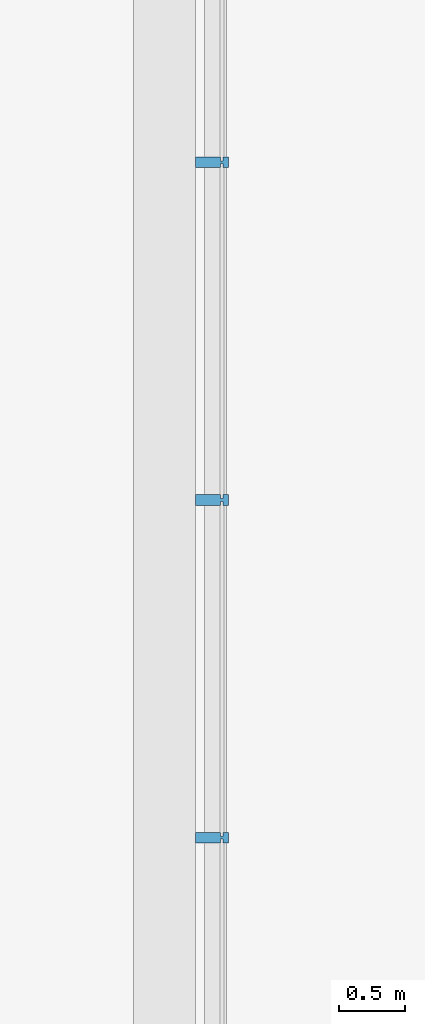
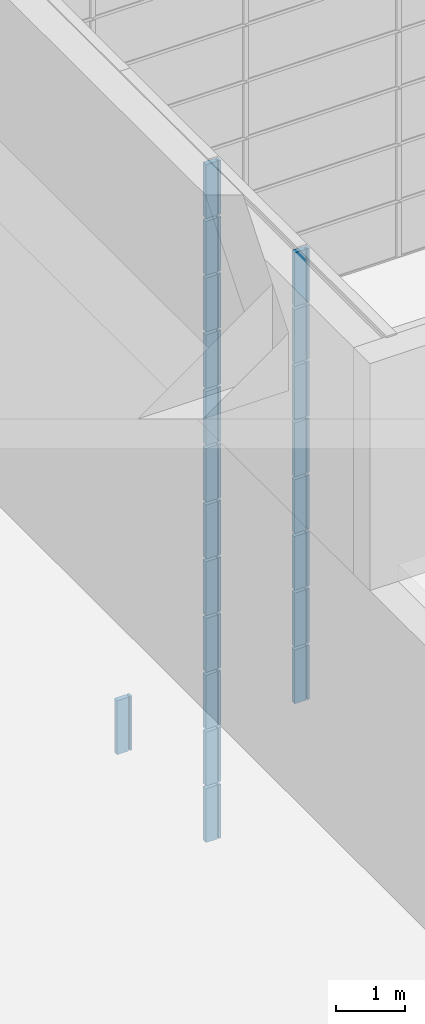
# One storey, part 77 of 105: 21 building element parts, 4 elements without a shape of their own.
"""IFC4 building model written with IfcOpenShell, lengths in millimetres."""

from ifc_helpers import new_model, entity, si_unit, converted_unit, derived_unit, direction, frame, origin_with_axes, place, context, subcontext, project, spatial, triangles, material, element, aggregate, save


model = new_model("IFC4")

# Units and contexts
model_context = context("Model", 3, precision=1e-05, world=origin_with_axes(), true_north=direction((0.0, 1.0)))
body_context = subcontext(model_context, "Body", "Model", "MODEL_VIEW")
ifc_project = project(units=[si_unit("LENGTHUNIT", "METRE", prefix="MILLI"), si_unit("AREAUNIT", "SQUARE_METRE"), si_unit("VOLUMEUNIT", "CUBIC_METRE"), converted_unit("PLANEANGLEUNIT", "DEGREE", entity("IfcLengthMeasure", 0.017453), si_unit("PLANEANGLEUNIT", "RADIAN"), dimensions=[0, 0, 0, 0, 0, 0, 0]), si_unit("SOLIDANGLEUNIT", "STERADIAN"), si_unit("MASSUNIT", "GRAM"), si_unit("TIMEUNIT", "SECOND"), si_unit("THERMODYNAMICTEMPERATUREUNIT", "DEGREE_CELSIUS"), si_unit("LUMINOUSINTENSITYUNIT", "LUMEN"), si_unit("POWERUNIT", "WATT"), derived_unit("THERMALTRANSMITTANCEUNIT", [(si_unit("POWERUNIT", "WATT"), 1), (si_unit("THERMODYNAMICTEMPERATUREUNIT", "KELVIN"), -1), (si_unit("AREAUNIT", "SQUARE_METRE"), -1)])], contexts=[model_context])

# Site, building, storey
site_placement = place(None, origin_with_axes())
site = spatial("IfcSite", under=ifc_project, at=site_placement, Name="Default Site", CompositionType="ELEMENT")
building_placement = place(site_placement, origin_with_axes())
building = spatial("IfcBuilding", under=site, at=building_placement, Name="Default Building", CompositionType="ELEMENT")
storey_placement = place(building_placement, origin_with_axes())
storey = spatial("IfcBuildingStorey", under=building, at=storey_placement, Name="OG - Story", CompositionType="ELEMENT", Elevation=0.0)

# Curtain wall, building element parts
curtain_wall_1_placement = place(storey_placement, origin_with_axes())
curtain_wall_1 = element("IfcCurtainWall", 1, at=curtain_wall_1_placement, inside=storey, Name="Fassade-006", PredefinedType="NOTDEFINED")
ifc_material = material(Name="Blech")
building_element_part_1_placement = place(curtain_wall_1_placement, frame((51421.391327, -39309.262838, 0.0), z_axis=(0.0, 0.0, 1.0), x_axis=(1.0, 0.0, 0.0)))
building_element_part_1 = element("IfcBuildingElementPart", 2, at=building_element_part_1_placement, material=ifc_material, Name="Blech", PredefinedType="NOTDEFINED", context=body_context, shape_type="Tessellation", body=[
    triangles([(50.0, 3880.0, 975.0), (10.0, 3880.0, 975.0), (50.0, 3800.0, 975.0), (10.0, 3850.0, 975.0), (10.0, 3830.0, 975.0), (-9.999, 3850.0, 975.0), (-9.999, 3830.0, 975.0), (-9.999, 3800.0, 975.0), (-9.999, 3880.0, 975.0), (-199.999, 3880.0, 975.0), (-199.999, 3800.0, 975.0), (10.0, 3800.0, 975.0), (-9.999, 3850.0, 25.0), (-9.999, 3880.0, 25.0), (-199.999, 3880.0, 25.0), (-199.999, 3800.0, 25.0), (-9.999, 3800.0, 25.0), (-9.999, 3830.0, 25.0), (10.0, 3830.0, 25.0), (10.0, 3800.0, 25.0), (50.0, 3800.0, 25.0), (50.0, 3880.0, 25.0), (10.0, 3880.0, 25.0), (10.0, 3850.0, 25.0)], [[1, 2, 3], [3, 2, 4], [3, 4, 5], [5, 4, 6], [5, 6, 7], [8, 9, 10], [8, 10, 11], [3, 5, 12], [9, 6, 13], [9, 13, 14], [9, 14, 15], [9, 15, 10], [10, 15, 16], [10, 16, 11], [8, 11, 16], [8, 16, 17], [8, 17, 18], [8, 18, 7], [7, 18, 19], [7, 19, 5], [12, 5, 19], [12, 19, 20], [20, 21, 3], [20, 3, 12], [3, 21, 22], [3, 22, 1], [23, 2, 1], [23, 1, 22], [4, 2, 23], [4, 23, 24], [6, 4, 24], [6, 24, 13], [21, 20, 22], [22, 20, 19], [22, 19, 24], [24, 19, 18], [24, 18, 13], [14, 17, 16], [14, 16, 15], [22, 24, 23]], closed=False),
])
building_element_part_2_placement = place(curtain_wall_1_placement, frame((51421.391327, -39309.262838, 0.0), z_axis=(0.0, 0.0, 1.0), x_axis=(1.0, 0.0, 0.0)))
building_element_part_2 = element("IfcBuildingElementPart", 3, at=building_element_part_2_placement, material=ifc_material, Name="Blech", PredefinedType="NOTDEFINED", context=body_context, shape_type="Tessellation", body=[
    triangles([(50.0, 6440.0, 975.0), (10.0, 6440.0, 975.0), (50.0, 6360.0, 975.0), (10.0, 6410.0, 975.0), (10.0, 6390.0, 975.0), (-9.999, 6410.0, 975.0), (-9.999, 6390.0, 975.0), (-9.999, 6360.0, 975.0), (-9.999, 6440.0, 975.0), (-199.999, 6440.0, 975.0), (-199.999, 6360.0, 975.0), (10.0, 6360.0, 975.0), (-9.999, 6410.0, 25.0), (-9.999, 6440.0, 25.0), (-199.999, 6440.0, 25.0), (-199.999, 6360.0, 25.0), (-9.999, 6360.0, 25.0), (-9.999, 6390.0, 25.0), (10.0, 6390.0, 25.0), (10.0, 6360.0, 25.0), (50.0, 6360.0, 25.0), (50.0, 6440.0, 25.0), (10.0, 6440.0, 25.0), (10.0, 6410.0, 25.0)], [[1, 2, 3], [3, 2, 4], [3, 4, 5], [5, 4, 6], [5, 6, 7], [8, 9, 10], [8, 10, 11], [3, 5, 12], [9, 6, 13], [9, 13, 14], [9, 14, 15], [9, 15, 10], [10, 15, 16], [10, 16, 11], [8, 11, 16], [8, 16, 17], [8, 17, 18], [8, 18, 7], [7, 18, 19], [7, 19, 5], [12, 5, 19], [12, 19, 20], [20, 21, 3], [20, 3, 12], [3, 21, 22], [3, 22, 1], [23, 2, 1], [23, 1, 22], [4, 2, 23], [4, 23, 24], [6, 4, 24], [6, 24, 13], [21, 20, 22], [22, 20, 19], [22, 19, 24], [24, 19, 18], [24, 18, 13], [14, 17, 16], [14, 16, 15], [22, 24, 23]], closed=False),
])
building_element_part_3_placement = place(curtain_wall_1_placement, frame((51421.391327, -39309.262838, 0.0), z_axis=(0.0, 0.0, 1.0), x_axis=(1.0, 0.0, 0.0)))
building_element_part_3 = element("IfcBuildingElementPart", 4, at=building_element_part_3_placement, material=ifc_material, Name="Blech", PredefinedType="NOTDEFINED", context=body_context, shape_type="Tessellation", body=[
    triangles([(50.0, 3880.0, 1975.0), (10.0, 3880.0, 1975.0), (50.0, 3800.0, 1975.0), (10.0, 3850.0, 1975.0), (10.0, 3830.0, 1975.0), (-9.999, 3850.0, 1975.0), (-9.999, 3830.0, 1975.0), (-9.999, 3800.0, 1975.0), (-9.999, 3880.0, 1975.0), (-199.999, 3880.0, 1975.0), (-199.999, 3800.0, 1975.0), (10.0, 3800.0, 1975.0), (-9.999, 3850.0, 1025.0), (-9.999, 3880.0, 1025.0), (-199.999, 3880.0, 1025.0), (-199.999, 3800.0, 1025.0), (-9.999, 3800.0, 1025.0), (-9.999, 3830.0, 1025.0), (10.0, 3830.0, 1025.0), (10.0, 3800.0, 1025.0), (50.0, 3800.0, 1025.0), (50.0, 3880.0, 1025.0), (10.0, 3880.0, 1025.0), (10.0, 3850.0, 1025.0)], [[1, 2, 3], [3, 2, 4], [3, 4, 5], [5, 4, 6], [5, 6, 7], [8, 9, 10], [8, 10, 11], [3, 5, 12], [9, 6, 13], [9, 13, 14], [9, 14, 15], [9, 15, 10], [10, 15, 16], [10, 16, 11], [8, 11, 16], [8, 16, 17], [8, 17, 18], [8, 18, 7], [7, 18, 19], [7, 19, 5], [12, 5, 19], [12, 19, 20], [20, 21, 3], [20, 3, 12], [3, 21, 22], [3, 22, 1], [23, 2, 1], [23, 1, 22], [4, 2, 23], [4, 23, 24], [6, 4, 24], [6, 24, 13], [21, 20, 22], [22, 20, 19], [22, 19, 24], [24, 19, 18], [24, 18, 13], [14, 17, 16], [14, 16, 15], [22, 24, 23]], closed=False),
])
building_element_part_4_placement = place(curtain_wall_1_placement, frame((51421.391327, -39309.262838, 0.0), z_axis=(0.0, 0.0, 1.0), x_axis=(1.0, 0.0, 0.0)))
building_element_part_4 = element("IfcBuildingElementPart", 5, at=building_element_part_4_placement, material=ifc_material, Name="Blech", PredefinedType="NOTDEFINED", context=body_context, shape_type="Tessellation", body=[
    triangles([(50.0, 3880.0, 2975.0), (10.0, 3880.0, 2975.0), (50.0, 3800.0, 2975.0), (10.0, 3850.0, 2975.0), (10.0, 3830.0, 2975.0), (-9.999, 3850.0, 2975.0), (-9.999, 3830.0, 2975.0), (-9.999, 3800.0, 2975.0), (-9.999, 3880.0, 2975.0), (-199.999, 3880.0, 2975.0), (-199.999, 3800.0, 2975.0), (10.0, 3800.0, 2975.0), (-9.999, 3850.0, 2025.0), (-9.999, 3880.0, 2025.0), (-199.999, 3880.0, 2025.0), (-199.999, 3800.0, 2025.0), (-9.999, 3800.0, 2025.0), (-9.999, 3830.0, 2025.0), (10.0, 3830.0, 2025.0), (10.0, 3800.0, 2025.0), (50.0, 3800.0, 2025.0), (50.0, 3880.0, 2025.0), (10.0, 3880.0, 2025.0), (10.0, 3850.0, 2025.0)], [[1, 2, 3], [3, 2, 4], [3, 4, 5], [5, 4, 6], [5, 6, 7], [8, 9, 10], [8, 10, 11], [3, 5, 12], [9, 6, 13], [9, 13, 14], [9, 14, 15], [9, 15, 10], [10, 15, 16], [10, 16, 11], [8, 11, 16], [8, 16, 17], [8, 17, 18], [8, 18, 7], [7, 18, 19], [7, 19, 5], [12, 5, 19], [12, 19, 20], [20, 21, 3], [20, 3, 12], [3, 21, 22], [3, 22, 1], [23, 2, 1], [23, 1, 22], [4, 2, 23], [4, 23, 24], [6, 4, 24], [6, 24, 13], [21, 20, 22], [22, 20, 19], [22, 19, 24], [24, 19, 18], [24, 18, 13], [14, 17, 16], [14, 16, 15], [22, 24, 23]], closed=False),
])
aggregate(curtain_wall_1, [building_element_part_1, building_element_part_2, building_element_part_3, building_element_part_4])

curtain_wall_2_placement = place(storey_placement, origin_with_axes())
curtain_wall_2 = element("IfcCurtainWall", 6, at=curtain_wall_2_placement, inside=storey, Name="Fassade-006", PredefinedType="NOTDEFINED")
building_element_part_5_placement = place(curtain_wall_2_placement, frame((51421.391327, -39309.262838, 3000.0), z_axis=(0.0, 0.0, 1.0), x_axis=(1.0, 0.0, 0.0)))
building_element_part_5 = element("IfcBuildingElementPart", 7, at=building_element_part_5_placement, material=ifc_material, Name="Blech", PredefinedType="NOTDEFINED", context=body_context, shape_type="Tessellation", body=[
    triangles([(50.0, 3880.0, 975.0), (10.0, 3880.0, 975.0), (50.0, 3800.0, 975.0), (10.0, 3850.0, 975.0), (10.0, 3830.0, 975.0), (-9.999, 3850.0, 975.0), (-9.999, 3830.0, 975.0), (-9.999, 3800.0, 975.0), (-9.999, 3880.0, 975.0), (-199.999, 3880.0, 975.0), (-199.999, 3800.0, 975.0), (10.0, 3800.0, 975.0), (-9.999, 3850.0, 25.0), (-9.999, 3880.0, 25.0), (-199.999, 3880.0, 25.0), (-199.999, 3800.0, 25.0), (-9.999, 3800.0, 25.0), (-9.999, 3830.0, 25.0), (10.0, 3830.0, 25.0), (10.0, 3800.0, 25.0), (50.0, 3800.0, 25.0), (50.0, 3880.0, 25.0), (10.0, 3880.0, 25.0), (10.0, 3850.0, 25.0)], [[1, 2, 3], [3, 2, 4], [3, 4, 5], [5, 4, 6], [5, 6, 7], [8, 9, 10], [8, 10, 11], [3, 5, 12], [9, 6, 13], [9, 13, 14], [9, 14, 15], [9, 15, 10], [10, 15, 16], [10, 16, 11], [8, 11, 16], [8, 16, 17], [8, 17, 18], [8, 18, 7], [7, 18, 19], [7, 19, 5], [12, 5, 19], [12, 19, 20], [20, 21, 3], [20, 3, 12], [3, 21, 22], [3, 22, 1], [23, 2, 1], [23, 1, 22], [4, 2, 23], [4, 23, 24], [6, 4, 24], [6, 24, 13], [21, 20, 22], [22, 20, 19], [22, 19, 24], [24, 19, 18], [24, 18, 13], [14, 17, 16], [14, 16, 15], [22, 24, 23]], closed=False),
])
building_element_part_6_placement = place(curtain_wall_2_placement, frame((51421.391327, -39309.262838, 3000.0), z_axis=(0.0, 0.0, 1.0), x_axis=(1.0, 0.0, 0.0)))
building_element_part_6 = element("IfcBuildingElementPart", 8, at=building_element_part_6_placement, material=ifc_material, Name="Blech", PredefinedType="NOTDEFINED", context=body_context, shape_type="Tessellation", body=[
    triangles([(50.0, 1320.0, 1975.0), (10.0, 1320.0, 1975.0), (50.0, 1240.0, 1975.0), (10.0, 1290.0, 1975.0), (10.0, 1270.0, 1975.0), (-9.999, 1290.0, 1975.0), (-9.999, 1270.0, 1975.0), (-9.999, 1240.0, 1975.0), (-9.999, 1320.0, 1975.0), (-199.999, 1320.0, 1975.0), (-199.999, 1240.0, 1975.0), (10.0, 1240.0, 1975.0), (-9.999, 1290.0, 1025.0), (-9.999, 1320.0, 1025.0), (-199.999, 1320.0, 1025.0), (-199.999, 1240.0, 1025.0), (-9.999, 1240.0, 1025.0), (-9.999, 1270.0, 1025.0), (10.0, 1270.0, 1025.0), (10.0, 1240.0, 1025.0), (50.0, 1240.0, 1025.0), (50.0, 1320.0, 1025.0), (10.0, 1320.0, 1025.0), (10.0, 1290.0, 1025.0)], [[1, 2, 3], [3, 2, 4], [3, 4, 5], [5, 4, 6], [5, 6, 7], [8, 9, 10], [8, 10, 11], [3, 5, 12], [9, 6, 13], [9, 13, 14], [9, 14, 15], [9, 15, 10], [10, 15, 16], [10, 16, 11], [8, 11, 16], [8, 16, 17], [8, 17, 18], [8, 18, 7], [7, 18, 19], [7, 19, 5], [12, 5, 19], [12, 19, 20], [20, 21, 3], [20, 3, 12], [3, 21, 22], [3, 22, 1], [23, 2, 1], [23, 1, 22], [4, 2, 23], [4, 23, 24], [6, 4, 24], [6, 24, 13], [21, 20, 22], [22, 20, 19], [22, 19, 24], [24, 19, 18], [24, 18, 13], [14, 17, 16], [14, 16, 15], [22, 24, 23]], closed=False),
])
building_element_part_7_placement = place(curtain_wall_2_placement, frame((51421.391327, -39309.262838, 3000.0), z_axis=(0.0, 0.0, 1.0), x_axis=(1.0, 0.0, 0.0)))
building_element_part_7 = element("IfcBuildingElementPart", 9, at=building_element_part_7_placement, material=ifc_material, Name="Blech", PredefinedType="NOTDEFINED", context=body_context, shape_type="Tessellation", body=[
    triangles([(50.0, 3880.0, 1975.0), (10.0, 3880.0, 1975.0), (50.0, 3800.0, 1975.0), (10.0, 3850.0, 1975.0), (10.0, 3830.0, 1975.0), (-9.999, 3850.0, 1975.0), (-9.999, 3830.0, 1975.0), (-9.999, 3800.0, 1975.0), (-9.999, 3880.0, 1975.0), (-199.999, 3880.0, 1975.0), (-199.999, 3800.0, 1975.0), (10.0, 3800.0, 1975.0), (-9.999, 3850.0, 1025.0), (-9.999, 3880.0, 1025.0), (-199.999, 3880.0, 1025.0), (-199.999, 3800.0, 1025.0), (-9.999, 3800.0, 1025.0), (-9.999, 3830.0, 1025.0), (10.0, 3830.0, 1025.0), (10.0, 3800.0, 1025.0), (50.0, 3800.0, 1025.0), (50.0, 3880.0, 1025.0), (10.0, 3880.0, 1025.0), (10.0, 3850.0, 1025.0)], [[1, 2, 3], [3, 2, 4], [3, 4, 5], [5, 4, 6], [5, 6, 7], [8, 9, 10], [8, 10, 11], [3, 5, 12], [9, 6, 13], [9, 13, 14], [9, 14, 15], [9, 15, 10], [10, 15, 16], [10, 16, 11], [8, 11, 16], [8, 16, 17], [8, 17, 18], [8, 18, 7], [7, 18, 19], [7, 19, 5], [12, 5, 19], [12, 19, 20], [20, 21, 3], [20, 3, 12], [3, 21, 22], [3, 22, 1], [23, 2, 1], [23, 1, 22], [4, 2, 23], [4, 23, 24], [6, 4, 24], [6, 24, 13], [21, 20, 22], [22, 20, 19], [22, 19, 24], [24, 19, 18], [24, 18, 13], [14, 17, 16], [14, 16, 15], [22, 24, 23]], closed=False),
])
building_element_part_8_placement = place(curtain_wall_2_placement, frame((51421.391327, -39309.262838, 3000.0), z_axis=(0.0, 0.0, 1.0), x_axis=(1.0, 0.0, 0.0)))
building_element_part_8 = element("IfcBuildingElementPart", 10, at=building_element_part_8_placement, material=ifc_material, Name="Blech", PredefinedType="NOTDEFINED", context=body_context, shape_type="Tessellation", body=[
    triangles([(50.0, 1320.0, 2975.0), (10.0, 1320.0, 2975.0), (50.0, 1240.0, 2975.0), (10.0, 1290.0, 2975.0), (10.0, 1270.0, 2975.0), (-9.999, 1290.0, 2975.0), (-9.999, 1270.0, 2975.0), (-9.999, 1240.0, 2975.0), (-9.999, 1320.0, 2975.0), (-199.999, 1320.0, 2975.0), (-199.999, 1240.0, 2975.0), (10.0, 1240.0, 2975.0), (-9.999, 1290.0, 2025.0), (-9.999, 1320.0, 2025.0), (-199.999, 1320.0, 2025.0), (-199.999, 1240.0, 2025.0), (-9.999, 1240.0, 2025.0), (-9.999, 1270.0, 2025.0), (10.0, 1270.0, 2025.0), (10.0, 1240.0, 2025.0), (50.0, 1240.0, 2025.0), (50.0, 1320.0, 2025.0), (10.0, 1320.0, 2025.0), (10.0, 1290.0, 2025.0)], [[1, 2, 3], [3, 2, 4], [3, 4, 5], [5, 4, 6], [5, 6, 7], [8, 9, 10], [8, 10, 11], [3, 5, 12], [9, 6, 13], [9, 13, 14], [9, 14, 15], [9, 15, 10], [10, 15, 16], [10, 16, 11], [8, 11, 16], [8, 16, 17], [8, 17, 18], [8, 18, 7], [7, 18, 19], [7, 19, 5], [12, 5, 19], [12, 19, 20], [20, 21, 3], [20, 3, 12], [3, 21, 22], [3, 22, 1], [23, 2, 1], [23, 1, 22], [4, 2, 23], [4, 23, 24], [6, 4, 24], [6, 24, 13], [21, 20, 22], [22, 20, 19], [22, 19, 24], [24, 19, 18], [24, 18, 13], [14, 17, 16], [14, 16, 15], [22, 24, 23]], closed=False),
])
building_element_part_9_placement = place(curtain_wall_2_placement, frame((51421.391327, -39309.262838, 3000.0), z_axis=(0.0, 0.0, 1.0), x_axis=(1.0, 0.0, 0.0)))
building_element_part_9 = element("IfcBuildingElementPart", 11, at=building_element_part_9_placement, material=ifc_material, Name="Blech", PredefinedType="NOTDEFINED", context=body_context, shape_type="Tessellation", body=[
    triangles([(50.0, 3880.0, 2975.0), (10.0, 3880.0, 2975.0), (50.0, 3800.0, 2975.0), (10.0, 3850.0, 2975.0), (10.0, 3830.0, 2975.0), (-9.999, 3850.0, 2975.0), (-9.999, 3830.0, 2975.0), (-9.999, 3800.0, 2975.0), (-9.999, 3880.0, 2975.0), (-199.999, 3880.0, 2975.0), (-199.999, 3800.0, 2975.0), (10.0, 3800.0, 2975.0), (-9.999, 3850.0, 2025.0), (-9.999, 3880.0, 2025.0), (-199.999, 3880.0, 2025.0), (-199.999, 3800.0, 2025.0), (-9.999, 3800.0, 2025.0), (-9.999, 3830.0, 2025.0), (10.0, 3830.0, 2025.0), (10.0, 3800.0, 2025.0), (50.0, 3800.0, 2025.0), (50.0, 3880.0, 2025.0), (10.0, 3880.0, 2025.0), (10.0, 3850.0, 2025.0)], [[1, 2, 3], [3, 2, 4], [3, 4, 5], [5, 4, 6], [5, 6, 7], [8, 9, 10], [8, 10, 11], [3, 5, 12], [9, 6, 13], [9, 13, 14], [9, 14, 15], [9, 15, 10], [10, 15, 16], [10, 16, 11], [8, 11, 16], [8, 16, 17], [8, 17, 18], [8, 18, 7], [7, 18, 19], [7, 19, 5], [12, 5, 19], [12, 19, 20], [20, 21, 3], [20, 3, 12], [3, 21, 22], [3, 22, 1], [23, 2, 1], [23, 1, 22], [4, 2, 23], [4, 23, 24], [6, 4, 24], [6, 24, 13], [21, 20, 22], [22, 20, 19], [22, 19, 24], [24, 19, 18], [24, 18, 13], [14, 17, 16], [14, 16, 15], [22, 24, 23]], closed=False),
])
aggregate(curtain_wall_2, [building_element_part_5, building_element_part_6, building_element_part_7, building_element_part_8, building_element_part_9])

curtain_wall_3_placement = place(storey_placement, origin_with_axes())
curtain_wall_3 = element("IfcCurtainWall", 12, at=curtain_wall_3_placement, inside=storey, Name="Fassade-006", PredefinedType="NOTDEFINED")
building_element_part_10_placement = place(curtain_wall_3_placement, frame((51421.391327, -39309.262838, 6000.0), z_axis=(0.0, 0.0, 1.0), x_axis=(1.0, 0.0, 0.0)))
building_element_part_10 = element("IfcBuildingElementPart", 13, at=building_element_part_10_placement, material=ifc_material, Name="Blech", PredefinedType="NOTDEFINED", context=body_context, shape_type="Tessellation", body=[
    triangles([(50.0, 1320.0, 975.0), (10.0, 1320.0, 975.0), (50.0, 1240.0, 975.0), (10.0, 1290.0, 975.0), (10.0, 1270.0, 975.0), (-9.999, 1290.0, 975.0), (-9.999, 1270.0, 975.0), (-9.999, 1240.0, 975.0), (-9.999, 1320.0, 975.0), (-199.999, 1320.0, 975.0), (-199.999, 1240.0, 975.0), (10.0, 1240.0, 975.0), (-9.999, 1290.0, 25.0), (-9.999, 1320.0, 25.0), (-199.999, 1320.0, 25.0), (-199.999, 1240.0, 25.0), (-9.999, 1240.0, 25.0), (-9.999, 1270.0, 25.0), (10.0, 1270.0, 25.0), (10.0, 1240.0, 25.0), (50.0, 1240.0, 25.0), (50.0, 1320.0, 25.0), (10.0, 1320.0, 25.0), (10.0, 1290.0, 25.0)], [[1, 2, 3], [3, 2, 4], [3, 4, 5], [5, 4, 6], [5, 6, 7], [8, 9, 10], [8, 10, 11], [3, 5, 12], [9, 6, 13], [9, 13, 14], [9, 14, 15], [9, 15, 10], [10, 15, 16], [10, 16, 11], [8, 11, 16], [8, 16, 17], [8, 17, 18], [8, 18, 7], [7, 18, 19], [7, 19, 5], [12, 5, 19], [12, 19, 20], [20, 21, 3], [20, 3, 12], [3, 21, 22], [3, 22, 1], [23, 2, 1], [23, 1, 22], [4, 2, 23], [4, 23, 24], [6, 4, 24], [6, 24, 13], [21, 20, 22], [22, 20, 19], [22, 19, 24], [24, 19, 18], [24, 18, 13], [14, 17, 16], [14, 16, 15], [22, 24, 23]], closed=False),
])
building_element_part_11_placement = place(curtain_wall_3_placement, frame((51421.391327, -39309.262838, 6000.0), z_axis=(0.0, 0.0, 1.0), x_axis=(1.0, 0.0, 0.0)))
building_element_part_11 = element("IfcBuildingElementPart", 14, at=building_element_part_11_placement, material=ifc_material, Name="Blech", PredefinedType="NOTDEFINED", context=body_context, shape_type="Tessellation", body=[
    triangles([(50.0, 3880.0, 975.0), (10.0, 3880.0, 975.0), (50.0, 3800.0, 975.0), (10.0, 3850.0, 975.0), (10.0, 3830.0, 975.0), (-9.999, 3850.0, 975.0), (-9.999, 3830.0, 975.0), (-9.999, 3800.0, 975.0), (-9.999, 3880.0, 975.0), (-199.999, 3880.0, 975.0), (-199.999, 3800.0, 975.0), (10.0, 3800.0, 975.0), (-9.999, 3850.0, 25.0), (-9.999, 3880.0, 25.0), (-199.999, 3880.0, 25.0), (-199.999, 3800.0, 25.0), (-9.999, 3800.0, 25.0), (-9.999, 3830.0, 25.0), (10.0, 3830.0, 25.0), (10.0, 3800.0, 25.0), (50.0, 3800.0, 25.0), (50.0, 3880.0, 25.0), (10.0, 3880.0, 25.0), (10.0, 3850.0, 25.0)], [[1, 2, 3], [3, 2, 4], [3, 4, 5], [5, 4, 6], [5, 6, 7], [8, 9, 10], [8, 10, 11], [3, 5, 12], [9, 6, 13], [9, 13, 14], [9, 14, 15], [9, 15, 10], [10, 15, 16], [10, 16, 11], [8, 11, 16], [8, 16, 17], [8, 17, 18], [8, 18, 7], [7, 18, 19], [7, 19, 5], [12, 5, 19], [12, 19, 20], [20, 21, 3], [20, 3, 12], [3, 21, 22], [3, 22, 1], [23, 2, 1], [23, 1, 22], [4, 2, 23], [4, 23, 24], [6, 4, 24], [6, 24, 13], [21, 20, 22], [22, 20, 19], [22, 19, 24], [24, 19, 18], [24, 18, 13], [14, 17, 16], [14, 16, 15], [22, 24, 23]], closed=False),
])
building_element_part_12_placement = place(curtain_wall_3_placement, frame((51421.391327, -39309.262838, 6000.0), z_axis=(0.0, 0.0, 1.0), x_axis=(1.0, 0.0, 0.0)))
building_element_part_12 = element("IfcBuildingElementPart", 15, at=building_element_part_12_placement, material=ifc_material, Name="Blech", PredefinedType="NOTDEFINED", context=body_context, shape_type="Tessellation", body=[
    triangles([(50.0, 1320.0, 1975.0), (10.0, 1320.0, 1975.0), (50.0, 1240.0, 1975.0), (10.0, 1290.0, 1975.0), (10.0, 1270.0, 1975.0), (-9.999, 1290.0, 1975.0), (-9.999, 1270.0, 1975.0), (-9.999, 1240.0, 1975.0), (-9.999, 1320.0, 1975.0), (-199.999, 1320.0, 1975.0), (-199.999, 1240.0, 1975.0), (10.0, 1240.0, 1975.0), (-9.999, 1290.0, 1025.0), (-9.999, 1320.0, 1025.0), (-199.999, 1320.0, 1025.0), (-199.999, 1240.0, 1025.0), (-9.999, 1240.0, 1025.0), (-9.999, 1270.0, 1025.0), (10.0, 1270.0, 1025.0), (10.0, 1240.0, 1025.0), (50.0, 1240.0, 1025.0), (50.0, 1320.0, 1025.0), (10.0, 1320.0, 1025.0), (10.0, 1290.0, 1025.0)], [[1, 2, 3], [3, 2, 4], [3, 4, 5], [5, 4, 6], [5, 6, 7], [8, 9, 10], [8, 10, 11], [3, 5, 12], [9, 6, 13], [9, 13, 14], [9, 14, 15], [9, 15, 10], [10, 15, 16], [10, 16, 11], [8, 11, 16], [8, 16, 17], [8, 17, 18], [8, 18, 7], [7, 18, 19], [7, 19, 5], [12, 5, 19], [12, 19, 20], [20, 21, 3], [20, 3, 12], [3, 21, 22], [3, 22, 1], [23, 2, 1], [23, 1, 22], [4, 2, 23], [4, 23, 24], [6, 4, 24], [6, 24, 13], [21, 20, 22], [22, 20, 19], [22, 19, 24], [24, 19, 18], [24, 18, 13], [14, 17, 16], [14, 16, 15], [22, 24, 23]], closed=False),
])
building_element_part_13_placement = place(curtain_wall_3_placement, frame((51421.391327, -39309.262838, 6000.0), z_axis=(0.0, 0.0, 1.0), x_axis=(1.0, 0.0, 0.0)))
building_element_part_13 = element("IfcBuildingElementPart", 16, at=building_element_part_13_placement, material=ifc_material, Name="Blech", PredefinedType="NOTDEFINED", context=body_context, shape_type="Tessellation", body=[
    triangles([(50.0, 3880.0, 1975.0), (10.0, 3880.0, 1975.0), (50.0, 3800.0, 1975.0), (10.0, 3850.0, 1975.0), (10.0, 3830.0, 1975.0), (-9.999, 3850.0, 1975.0), (-9.999, 3830.0, 1975.0), (-9.999, 3800.0, 1975.0), (-9.999, 3880.0, 1975.0), (-199.999, 3880.0, 1975.0), (-199.999, 3800.0, 1975.0), (10.0, 3800.0, 1975.0), (-9.999, 3850.0, 1025.0), (-9.999, 3880.0, 1025.0), (-199.999, 3880.0, 1025.0), (-199.999, 3800.0, 1025.0), (-9.999, 3800.0, 1025.0), (-9.999, 3830.0, 1025.0), (10.0, 3830.0, 1025.0), (10.0, 3800.0, 1025.0), (50.0, 3800.0, 1025.0), (50.0, 3880.0, 1025.0), (10.0, 3880.0, 1025.0), (10.0, 3850.0, 1025.0)], [[1, 2, 3], [3, 2, 4], [3, 4, 5], [5, 4, 6], [5, 6, 7], [8, 9, 10], [8, 10, 11], [3, 5, 12], [9, 6, 13], [9, 13, 14], [9, 14, 15], [9, 15, 10], [10, 15, 16], [10, 16, 11], [8, 11, 16], [8, 16, 17], [8, 17, 18], [8, 18, 7], [7, 18, 19], [7, 19, 5], [12, 5, 19], [12, 19, 20], [20, 21, 3], [20, 3, 12], [3, 21, 22], [3, 22, 1], [23, 2, 1], [23, 1, 22], [4, 2, 23], [4, 23, 24], [6, 4, 24], [6, 24, 13], [21, 20, 22], [22, 20, 19], [22, 19, 24], [24, 19, 18], [24, 18, 13], [14, 17, 16], [14, 16, 15], [22, 24, 23]], closed=False),
])
building_element_part_14_placement = place(curtain_wall_3_placement, frame((51421.391327, -39309.262838, 6000.0), z_axis=(0.0, 0.0, 1.0), x_axis=(1.0, 0.0, 0.0)))
building_element_part_14 = element("IfcBuildingElementPart", 17, at=building_element_part_14_placement, material=ifc_material, Name="Blech", PredefinedType="NOTDEFINED", context=body_context, shape_type="Tessellation", body=[
    triangles([(50.0, 1320.0, 2975.0), (10.0, 1320.0, 2975.0), (50.0, 1240.0, 2975.0), (10.0, 1290.0, 2975.0), (10.0, 1270.0, 2975.0), (-9.999, 1290.0, 2975.0), (-9.999, 1270.0, 2975.0), (-9.999, 1240.0, 2975.0), (-9.999, 1320.0, 2975.0), (-199.999, 1320.0, 2975.0), (-199.999, 1240.0, 2975.0), (10.0, 1240.0, 2975.0), (-9.999, 1290.0, 2025.0), (-9.999, 1320.0, 2025.0), (-199.999, 1320.0, 2025.0), (-199.999, 1240.0, 2025.0), (-9.999, 1240.0, 2025.0), (-9.999, 1270.0, 2025.0), (10.0, 1270.0, 2025.0), (10.0, 1240.0, 2025.0), (50.0, 1240.0, 2025.0), (50.0, 1320.0, 2025.0), (10.0, 1320.0, 2025.0), (10.0, 1290.0, 2025.0)], [[1, 2, 3], [3, 2, 4], [3, 4, 5], [5, 4, 6], [5, 6, 7], [8, 9, 10], [8, 10, 11], [3, 5, 12], [9, 6, 13], [9, 13, 14], [9, 14, 15], [9, 15, 10], [10, 15, 16], [10, 16, 11], [8, 11, 16], [8, 16, 17], [8, 17, 18], [8, 18, 7], [7, 18, 19], [7, 19, 5], [12, 5, 19], [12, 19, 20], [20, 21, 3], [20, 3, 12], [3, 21, 22], [3, 22, 1], [23, 2, 1], [23, 1, 22], [4, 2, 23], [4, 23, 24], [6, 4, 24], [6, 24, 13], [21, 20, 22], [22, 20, 19], [22, 19, 24], [24, 19, 18], [24, 18, 13], [14, 17, 16], [14, 16, 15], [22, 24, 23]], closed=False),
])
building_element_part_15_placement = place(curtain_wall_3_placement, frame((51421.391327, -39309.262838, 6000.0), z_axis=(0.0, 0.0, 1.0), x_axis=(1.0, 0.0, 0.0)))
building_element_part_15 = element("IfcBuildingElementPart", 18, at=building_element_part_15_placement, material=ifc_material, Name="Blech", PredefinedType="NOTDEFINED", context=body_context, shape_type="Tessellation", body=[
    triangles([(50.0, 3880.0, 2975.0), (10.0, 3880.0, 2975.0), (50.0, 3800.0, 2975.0), (10.0, 3850.0, 2975.0), (10.0, 3830.0, 2975.0), (-9.999, 3850.0, 2975.0), (-9.999, 3830.0, 2975.0), (-9.999, 3800.0, 2975.0), (-9.999, 3880.0, 2975.0), (-199.999, 3880.0, 2975.0), (-199.999, 3800.0, 2975.0), (10.0, 3800.0, 2975.0), (-9.999, 3850.0, 2025.0), (-9.999, 3880.0, 2025.0), (-199.999, 3880.0, 2025.0), (-199.999, 3800.0, 2025.0), (-9.999, 3800.0, 2025.0), (-9.999, 3830.0, 2025.0), (10.0, 3830.0, 2025.0), (10.0, 3800.0, 2025.0), (50.0, 3800.0, 2025.0), (50.0, 3880.0, 2025.0), (10.0, 3880.0, 2025.0), (10.0, 3850.0, 2025.0)], [[1, 2, 3], [3, 2, 4], [3, 4, 5], [5, 4, 6], [5, 6, 7], [8, 9, 10], [8, 10, 11], [3, 5, 12], [9, 6, 13], [9, 13, 14], [9, 14, 15], [9, 15, 10], [10, 15, 16], [10, 16, 11], [8, 11, 16], [8, 16, 17], [8, 17, 18], [8, 18, 7], [7, 18, 19], [7, 19, 5], [12, 5, 19], [12, 19, 20], [20, 21, 3], [20, 3, 12], [3, 21, 22], [3, 22, 1], [23, 2, 1], [23, 1, 22], [4, 2, 23], [4, 23, 24], [6, 4, 24], [6, 24, 13], [21, 20, 22], [22, 20, 19], [22, 19, 24], [24, 19, 18], [24, 18, 13], [14, 17, 16], [14, 16, 15], [22, 24, 23]], closed=False),
])
aggregate(curtain_wall_3, [building_element_part_10, building_element_part_11, building_element_part_12, building_element_part_13, building_element_part_14, building_element_part_15])

curtain_wall_4_placement = place(storey_placement, origin_with_axes())
curtain_wall_4 = element("IfcCurtainWall", 19, at=curtain_wall_4_placement, inside=storey, Name="Fassade-006", PredefinedType="NOTDEFINED")
building_element_part_16_placement = place(curtain_wall_4_placement, frame((51421.391327, -39309.262838, 9000.0), z_axis=(0.0, 0.0, 1.0), x_axis=(1.0, 0.0, 0.0)))
building_element_part_16 = element("IfcBuildingElementPart", 20, at=building_element_part_16_placement, material=ifc_material, Name="Blech", PredefinedType="NOTDEFINED", context=body_context, shape_type="Tessellation", body=[
    triangles([(50.0, 1320.0, 975.0), (10.0, 1320.0, 975.0), (50.0, 1240.0, 975.0), (10.0, 1290.0, 975.0), (10.0, 1270.0, 975.0), (-9.999, 1290.0, 975.0), (-9.999, 1270.0, 975.0), (-9.999, 1240.0, 975.0), (-9.999, 1320.0, 975.0), (-199.999, 1320.0, 975.0), (-199.999, 1240.0, 975.0), (10.0, 1240.0, 975.0), (-9.999, 1290.0, 25.0), (-9.999, 1320.0, 25.0), (-199.999, 1320.0, 25.0), (-199.999, 1240.0, 25.0), (-9.999, 1240.0, 25.0), (-9.999, 1270.0, 25.0), (10.0, 1270.0, 25.0), (10.0, 1240.0, 25.0), (50.0, 1240.0, 25.0), (50.0, 1320.0, 25.0), (10.0, 1320.0, 25.0), (10.0, 1290.0, 25.0)], [[1, 2, 3], [3, 2, 4], [3, 4, 5], [5, 4, 6], [5, 6, 7], [8, 9, 10], [8, 10, 11], [3, 5, 12], [9, 6, 13], [9, 13, 14], [9, 14, 15], [9, 15, 10], [10, 15, 16], [10, 16, 11], [8, 11, 16], [8, 16, 17], [8, 17, 18], [8, 18, 7], [7, 18, 19], [7, 19, 5], [12, 5, 19], [12, 19, 20], [20, 21, 3], [20, 3, 12], [3, 21, 22], [3, 22, 1], [23, 2, 1], [23, 1, 22], [4, 2, 23], [4, 23, 24], [6, 4, 24], [6, 24, 13], [21, 20, 22], [22, 20, 19], [22, 19, 24], [24, 19, 18], [24, 18, 13], [14, 17, 16], [14, 16, 15], [22, 24, 23]], closed=False),
])
building_element_part_17_placement = place(curtain_wall_4_placement, frame((51421.391327, -39309.262838, 9000.0), z_axis=(0.0, 0.0, 1.0), x_axis=(1.0, 0.0, 0.0)))
building_element_part_17 = element("IfcBuildingElementPart", 21, at=building_element_part_17_placement, material=ifc_material, Name="Blech", PredefinedType="NOTDEFINED", context=body_context, shape_type="Tessellation", body=[
    triangles([(50.0, 3880.0, 975.0), (10.0, 3880.0, 975.0), (50.0, 3800.0, 975.0), (10.0, 3850.0, 975.0), (10.0, 3830.0, 975.0), (-9.999, 3850.0, 975.0), (-9.999, 3830.0, 975.0), (-9.999, 3800.0, 975.0), (-9.999, 3880.0, 975.0), (-199.999, 3880.0, 975.0), (-199.999, 3800.0, 975.0), (10.0, 3800.0, 975.0), (-9.999, 3850.0, 25.0), (-9.999, 3880.0, 25.0), (-199.999, 3880.0, 25.0), (-199.999, 3800.0, 25.0), (-9.999, 3800.0, 25.0), (-9.999, 3830.0, 25.0), (10.0, 3830.0, 25.0), (10.0, 3800.0, 25.0), (50.0, 3800.0, 25.0), (50.0, 3880.0, 25.0), (10.0, 3880.0, 25.0), (10.0, 3850.0, 25.0)], [[1, 2, 3], [3, 2, 4], [3, 4, 5], [5, 4, 6], [5, 6, 7], [8, 9, 10], [8, 10, 11], [3, 5, 12], [9, 6, 13], [9, 13, 14], [9, 14, 15], [9, 15, 10], [10, 15, 16], [10, 16, 11], [8, 11, 16], [8, 16, 17], [8, 17, 18], [8, 18, 7], [7, 18, 19], [7, 19, 5], [12, 5, 19], [12, 19, 20], [20, 21, 3], [20, 3, 12], [3, 21, 22], [3, 22, 1], [23, 2, 1], [23, 1, 22], [4, 2, 23], [4, 23, 24], [6, 4, 24], [6, 24, 13], [21, 20, 22], [22, 20, 19], [22, 19, 24], [24, 19, 18], [24, 18, 13], [14, 17, 16], [14, 16, 15], [22, 24, 23]], closed=False),
])
building_element_part_18_placement = place(curtain_wall_4_placement, frame((51421.391327, -39309.262838, 9000.0), z_axis=(0.0, 0.0, 1.0), x_axis=(1.0, 0.0, 0.0)))
building_element_part_18 = element("IfcBuildingElementPart", 22, at=building_element_part_18_placement, material=ifc_material, Name="Blech", PredefinedType="NOTDEFINED", context=body_context, shape_type="Tessellation", body=[
    triangles([(50.0, 1320.0, 1975.0), (10.0, 1320.0, 1975.0), (50.0, 1240.0, 1975.0), (10.0, 1290.0, 1975.0), (10.0, 1270.0, 1975.0), (-9.999, 1290.0, 1975.0), (-9.999, 1270.0, 1975.0), (-9.999, 1240.0, 1975.0), (-9.999, 1320.0, 1975.0), (-199.999, 1320.0, 1975.0), (-199.999, 1240.0, 1975.0), (10.0, 1240.0, 1975.0), (-9.999, 1290.0, 1025.0), (-9.999, 1320.0, 1025.0), (-199.999, 1320.0, 1025.0), (-199.999, 1240.0, 1025.0), (-9.999, 1240.0, 1025.0), (-9.999, 1270.0, 1025.0), (10.0, 1270.0, 1025.0), (10.0, 1240.0, 1025.0), (50.0, 1240.0, 1025.0), (50.0, 1320.0, 1025.0), (10.0, 1320.0, 1025.0), (10.0, 1290.0, 1025.0)], [[1, 2, 3], [3, 2, 4], [3, 4, 5], [5, 4, 6], [5, 6, 7], [8, 9, 10], [8, 10, 11], [3, 5, 12], [9, 6, 13], [9, 13, 14], [9, 14, 15], [9, 15, 10], [10, 15, 16], [10, 16, 11], [8, 11, 16], [8, 16, 17], [8, 17, 18], [8, 18, 7], [7, 18, 19], [7, 19, 5], [12, 5, 19], [12, 19, 20], [20, 21, 3], [20, 3, 12], [3, 21, 22], [3, 22, 1], [23, 2, 1], [23, 1, 22], [4, 2, 23], [4, 23, 24], [6, 4, 24], [6, 24, 13], [21, 20, 22], [22, 20, 19], [22, 19, 24], [24, 19, 18], [24, 18, 13], [14, 17, 16], [14, 16, 15], [22, 24, 23]], closed=False),
])
building_element_part_19_placement = place(curtain_wall_4_placement, frame((51421.391327, -39309.262838, 9000.0), z_axis=(0.0, 0.0, 1.0), x_axis=(1.0, 0.0, 0.0)))
building_element_part_19 = element("IfcBuildingElementPart", 23, at=building_element_part_19_placement, material=ifc_material, Name="Blech", PredefinedType="NOTDEFINED", context=body_context, shape_type="Tessellation", body=[
    triangles([(50.0, 3880.0, 1975.0), (10.0, 3880.0, 1975.0), (50.0, 3800.0, 1975.0), (10.0, 3850.0, 1975.0), (10.0, 3830.0, 1975.0), (-9.999, 3850.0, 1975.0), (-9.999, 3830.0, 1975.0), (-9.999, 3800.0, 1975.0), (-9.999, 3880.0, 1975.0), (-199.999, 3880.0, 1975.0), (-199.999, 3800.0, 1975.0), (10.0, 3800.0, 1975.0), (-9.999, 3850.0, 1025.0), (-9.999, 3880.0, 1025.0), (-199.999, 3880.0, 1025.0), (-199.999, 3800.0, 1025.0), (-9.999, 3800.0, 1025.0), (-9.999, 3830.0, 1025.0), (10.0, 3830.0, 1025.0), (10.0, 3800.0, 1025.0), (50.0, 3800.0, 1025.0), (50.0, 3880.0, 1025.0), (10.0, 3880.0, 1025.0), (10.0, 3850.0, 1025.0)], [[1, 2, 3], [3, 2, 4], [3, 4, 5], [5, 4, 6], [5, 6, 7], [8, 9, 10], [8, 10, 11], [3, 5, 12], [9, 6, 13], [9, 13, 14], [9, 14, 15], [9, 15, 10], [10, 15, 16], [10, 16, 11], [8, 11, 16], [8, 16, 17], [8, 17, 18], [8, 18, 7], [7, 18, 19], [7, 19, 5], [12, 5, 19], [12, 19, 20], [20, 21, 3], [20, 3, 12], [3, 21, 22], [3, 22, 1], [23, 2, 1], [23, 1, 22], [4, 2, 23], [4, 23, 24], [6, 4, 24], [6, 24, 13], [21, 20, 22], [22, 20, 19], [22, 19, 24], [24, 19, 18], [24, 18, 13], [14, 17, 16], [14, 16, 15], [22, 24, 23]], closed=False),
])
building_element_part_20_placement = place(curtain_wall_4_placement, frame((51421.391327, -39309.262838, 9000.0), z_axis=(0.0, 0.0, 1.0), x_axis=(1.0, 0.0, 0.0)))
building_element_part_20 = element("IfcBuildingElementPart", 24, at=building_element_part_20_placement, material=ifc_material, Name="Blech", PredefinedType="NOTDEFINED", context=body_context, shape_type="Tessellation", body=[
    triangles([(50.0, 1320.0, 2975.0), (10.0, 1320.0, 2975.0), (50.0, 1240.0, 2975.0), (10.0, 1290.0, 2975.0), (10.0, 1270.0, 2975.0), (-9.999, 1290.0, 2975.0), (-9.999, 1270.0, 2975.0), (-9.999, 1240.0, 2975.0), (-9.999, 1320.0, 2975.0), (-199.999, 1320.0, 2975.0), (-199.999, 1240.0, 2975.0), (10.0, 1240.0, 2975.0), (-9.999, 1290.0, 2025.0), (-9.999, 1320.0, 2025.0), (-199.999, 1320.0, 2025.0), (-199.999, 1240.0, 2025.0), (-9.999, 1240.0, 2025.0), (-9.999, 1270.0, 2025.0), (10.0, 1270.0, 2025.0), (10.0, 1240.0, 2025.0), (50.0, 1240.0, 2025.0), (50.0, 1320.0, 2025.0), (10.0, 1320.0, 2025.0), (10.0, 1290.0, 2025.0)], [[1, 2, 3], [3, 2, 4], [3, 4, 5], [5, 4, 6], [5, 6, 7], [8, 9, 10], [8, 10, 11], [3, 5, 12], [9, 6, 13], [9, 13, 14], [9, 14, 15], [9, 15, 10], [10, 15, 16], [10, 16, 11], [8, 11, 16], [8, 16, 17], [8, 17, 18], [8, 18, 7], [7, 18, 19], [7, 19, 5], [12, 5, 19], [12, 19, 20], [20, 21, 3], [20, 3, 12], [3, 21, 22], [3, 22, 1], [23, 2, 1], [23, 1, 22], [4, 2, 23], [4, 23, 24], [6, 4, 24], [6, 24, 13], [21, 20, 22], [22, 20, 19], [22, 19, 24], [24, 19, 18], [24, 18, 13], [14, 17, 16], [14, 16, 15], [22, 24, 23]], closed=False),
])
building_element_part_21_placement = place(curtain_wall_4_placement, frame((51421.391327, -39309.262838, 9000.0), z_axis=(0.0, 0.0, 1.0), x_axis=(1.0, 0.0, 0.0)))
building_element_part_21 = element("IfcBuildingElementPart", 25, at=building_element_part_21_placement, material=ifc_material, Name="Blech", PredefinedType="NOTDEFINED", context=body_context, shape_type="Tessellation", body=[
    triangles([(50.0, 3880.0, 2975.0), (10.0, 3880.0, 2975.0), (50.0, 3800.0, 2975.0), (10.0, 3850.0, 2975.0), (10.0, 3830.0, 2975.0), (-9.999, 3850.0, 2975.0), (-9.999, 3830.0, 2975.0), (-9.999, 3800.0, 2975.0), (-9.999, 3880.0, 2975.0), (-199.999, 3880.0, 2975.0), (-199.999, 3800.0, 2975.0), (10.0, 3800.0, 2975.0), (-9.999, 3850.0, 2025.0), (-9.999, 3880.0, 2025.0), (-199.999, 3880.0, 2025.0), (-199.999, 3800.0, 2025.0), (-9.999, 3800.0, 2025.0), (-9.999, 3830.0, 2025.0), (10.0, 3830.0, 2025.0), (10.0, 3800.0, 2025.0), (50.0, 3800.0, 2025.0), (50.0, 3880.0, 2025.0), (10.0, 3880.0, 2025.0), (10.0, 3850.0, 2025.0)], [[1, 2, 3], [3, 2, 4], [3, 4, 5], [5, 4, 6], [5, 6, 7], [8, 9, 10], [8, 10, 11], [3, 5, 12], [9, 6, 13], [9, 13, 14], [9, 14, 15], [9, 15, 10], [10, 15, 16], [10, 16, 11], [8, 11, 16], [8, 16, 17], [8, 17, 18], [8, 18, 7], [7, 18, 19], [7, 19, 5], [12, 5, 19], [12, 19, 20], [20, 21, 3], [20, 3, 12], [3, 21, 22], [3, 22, 1], [23, 2, 1], [23, 1, 22], [4, 2, 23], [4, 23, 24], [6, 4, 24], [6, 24, 13], [21, 20, 22], [22, 20, 19], [22, 19, 24], [24, 19, 18], [24, 18, 13], [14, 17, 16], [14, 16, 15], [22, 24, 23]], closed=False),
])
aggregate(curtain_wall_4, [building_element_part_16, building_element_part_17, building_element_part_18, building_element_part_19, building_element_part_20, building_element_part_21])

save(model, "model.ifc")
